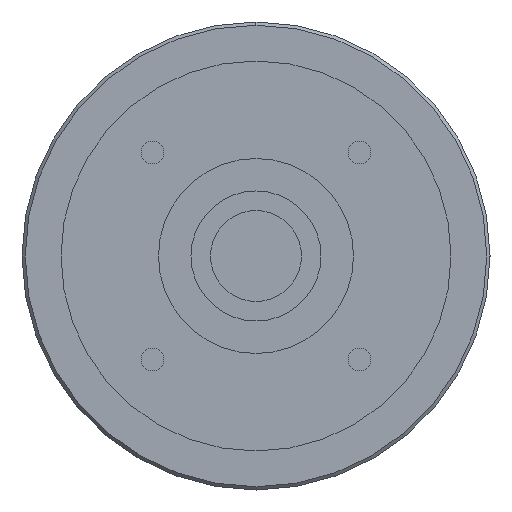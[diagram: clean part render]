
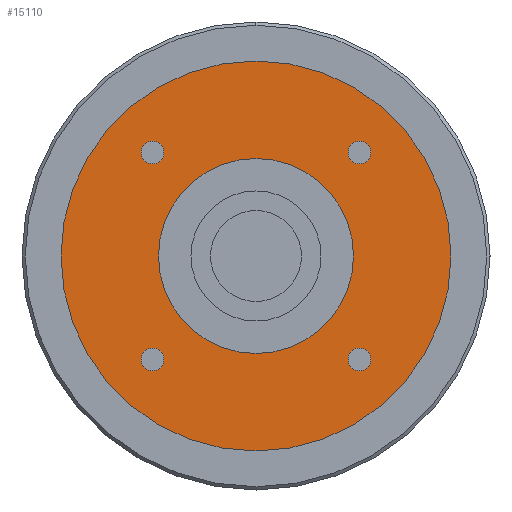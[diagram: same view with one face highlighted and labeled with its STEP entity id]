
A CAD part, left-side view. The second image highlights one B-rep face of the part: STEP entity #15110.
In plain terms, the highlighted planar face has unit normal (-1, 0, 0) as drawn and (0, 0, -1) by its records, which use the part's own axes.
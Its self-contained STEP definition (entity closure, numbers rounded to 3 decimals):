
#11930=CARTESIAN_POINT('',(-14.16,-15.91,-95.));
#11940=VERTEX_POINT('',#11930);
#12120=CARTESIAN_POINT('',(-17.66,-15.91,-95.));
#12130=VERTEX_POINT('',#12120);
#12160=CARTESIAN_POINT('',(-15.91,-15.91,-95.));
#12170=DIRECTION('',(0.,0.,-1.));
#12180=DIRECTION('',(0.,-1.,0.));
#12190=AXIS2_PLACEMENT_3D('',#12160,#12170,#12180);
#12200=CIRCLE('',#12190,1.75);
#12210=CARTESIAN_POINT('',(-15.91,-17.66,-95.));
#12220=VERTEX_POINT('',#12210);
#12230=EDGE_CURVE('',#12220,#12130,#12200,.T.);
#12250=EDGE_CURVE('',#11940,#12220,#12200,.T.);
#12350=CARTESIAN_POINT('',(0.,0.,
-95.));
#12360=DIRECTION('',(0.,0.,1.));
#12370=DIRECTION('',(0.,-1.,0.));
#12380=AXIS2_PLACEMENT_3D('',#12350,#12360,#12370);
#12390=CIRCLE('',#12380,15.);
#12400=CARTESIAN_POINT('',(0.,-15.,-95.));
#12410=VERTEX_POINT('',#12400);
#12420=CARTESIAN_POINT('',(15.,0.,-95.));
#12430=VERTEX_POINT('',#12420);
#12440=EDGE_CURVE('',#12410,#12430,#12390,.T.);
#12670=CARTESIAN_POINT('',(-15.,0.,-95.));
#12680=VERTEX_POINT('',#12670);
#12710=EDGE_CURVE('',#12680,#12410,#12390,.T.);
#14040=CARTESIAN_POINT('',(30.,0.,-95.));
#14050=VERTEX_POINT('',#14040);
#14080=CARTESIAN_POINT('',(0.,0.,
-95.));
#14090=DIRECTION('',(0.,0.,1.));
#14100=DIRECTION('',(0.,-1.,0.));
#14110=AXIS2_PLACEMENT_3D('',#14080,#14090,#14100);
#14120=CIRCLE('',#14110,30.);
#14130=CARTESIAN_POINT('',(0.,-30.,-95.));
#14140=VERTEX_POINT('',#14130);
#14150=EDGE_CURVE('',#14140,#14050,#14120,.T.);
#14170=CARTESIAN_POINT('',(-30.,0.,-95.));
#14180=VERTEX_POINT('',#14170);
#14190=EDGE_CURVE('',#14180,#14140,#14120,.T.);
#14310=CARTESIAN_POINT('',(0.,0.,
-95.));
#14320=DIRECTION('',(0.,0.,1.));
#14330=DIRECTION('',(-1.,0.,0.));
#14340=AXIS2_PLACEMENT_3D('',#14310,#14320,#14330);
#14350=PLANE('',#14340);
#14360=CARTESIAN_POINT('',(15.91,-15.91,-95.));
#14370=DIRECTION('',(0.,0.,-1.));
#14380=DIRECTION('',(1.,0.,0.));
#14390=AXIS2_PLACEMENT_3D('',#14360,#14370,#14380);
#14400=CIRCLE('',#14390,1.75);
#14410=CARTESIAN_POINT('',(17.66,-15.91,-95.));
#14420=VERTEX_POINT('',#14410);
#14430=CARTESIAN_POINT('',(15.91,-17.66,-95.));
#14440=VERTEX_POINT('',#14430);
#14450=EDGE_CURVE('',#14420,#14440,#14400,.T.);
#14460=ORIENTED_EDGE('',*,*,#14450,.F.);
#14470=CARTESIAN_POINT('',(15.91,-14.16,-95.));
#14480=VERTEX_POINT('',#14470);
#14490=EDGE_CURVE('',#14440,#14480,#14400,.T.);
#14500=ORIENTED_EDGE('',*,*,#14490,.F.);
#14510=EDGE_CURVE('',#14480,#14420,#14400,.T.);
#14520=ORIENTED_EDGE('',*,*,#14510,.F.);
#14530=EDGE_LOOP('',(#14520,#14500,#14460));
#14540=FACE_BOUND('',#14530,.T.);
#14550=CARTESIAN_POINT('',(15.91,15.91,-95.));
#14560=DIRECTION('',(0.,0.,-1.));
#14570=DIRECTION('',(0.,1.,0.));
#14580=AXIS2_PLACEMENT_3D('',#14550,#14560,#14570);
#14590=CIRCLE('',#14580,1.75);
#14600=CARTESIAN_POINT('',(15.91,17.66,-95.));
#14610=VERTEX_POINT('',#14600);
#14620=CARTESIAN_POINT('',(17.66,15.91,-95.));
#14630=VERTEX_POINT('',#14620);
#14640=EDGE_CURVE('',#14610,#14630,#14590,.T.);
#14650=ORIENTED_EDGE('',*,*,#14640,.F.);
#14660=CARTESIAN_POINT('',(14.16,15.91,-95.));
#14670=VERTEX_POINT('',#14660);
#14680=EDGE_CURVE('',#14630,#14670,#14590,.T.);
#14690=ORIENTED_EDGE('',*,*,#14680,.F.);
#14700=EDGE_CURVE('',#14670,#14610,#14590,.T.);
#14710=ORIENTED_EDGE('',*,*,#14700,.F.);
#14720=EDGE_LOOP('',(#14710,#14690,#14650));
#14730=FACE_BOUND('',#14720,.T.);
#14740=CARTESIAN_POINT('',(-15.91,15.91,-95.));
#14750=DIRECTION('',(0.,0.,-1.));
#14760=DIRECTION('',(-1.,0.,0.));
#14770=AXIS2_PLACEMENT_3D('',#14740,#14750,#14760);
#14780=CIRCLE('',#14770,1.75);
#14790=CARTESIAN_POINT('',(-17.66,15.91,-95.));
#14800=VERTEX_POINT('',#14790);
#14810=CARTESIAN_POINT('',(-15.91,17.66,-95.));
#14820=VERTEX_POINT('',#14810);
#14830=EDGE_CURVE('',#14800,#14820,#14780,.T.);
#14840=ORIENTED_EDGE('',*,*,#14830,.F.);
#14850=CARTESIAN_POINT('',(-15.91,14.16,-95.));
#14860=VERTEX_POINT('',#14850);
#14870=EDGE_CURVE('',#14820,#14860,#14780,.T.);
#14880=ORIENTED_EDGE('',*,*,#14870,.F.);
#14890=EDGE_CURVE('',#14860,#14800,#14780,.T.);
#14900=ORIENTED_EDGE('',*,*,#14890,.F.);
#14910=EDGE_LOOP('',(#14900,#14880,#14840));
#14920=FACE_BOUND('',#14910,.T.);
#14930=ORIENTED_EDGE('',*,*,#12230,.F.);
#14940=EDGE_CURVE('',#12130,#11940,#12200,.T.);
#14950=ORIENTED_EDGE('',*,*,#14940,.F.);
#14960=ORIENTED_EDGE('',*,*,#12250,.F.);
#14970=EDGE_LOOP('',(#14960,#14950,#14930));
#14980=FACE_BOUND('',#14970,.T.);
#14990=ORIENTED_EDGE('',*,*,#14150,.F.);
#15000=EDGE_CURVE('',#14050,#14180,#14120,.T.);
#15010=ORIENTED_EDGE('',*,*,#15000,.F.);
#15020=ORIENTED_EDGE('',*,*,#14190,.F.);
#15030=EDGE_LOOP('',(#15020,#15010,#14990));
#15040=FACE_OUTER_BOUND('',#15030,.T.);
#15050=EDGE_CURVE('',#12430,#12680,#12390,.T.);
#15060=ORIENTED_EDGE('',*,*,#15050,.T.);
#15070=ORIENTED_EDGE('',*,*,#12440,.T.);
#15080=ORIENTED_EDGE('',*,*,#12710,.T.);
#15090=EDGE_LOOP('',(#15080,#15070,#15060));
#15100=FACE_BOUND('',#15090,.T.);
#15110=ADVANCED_FACE('',(#14540,#14730,#14920,#14980,#15040,#15100),
#14350,.F.);
